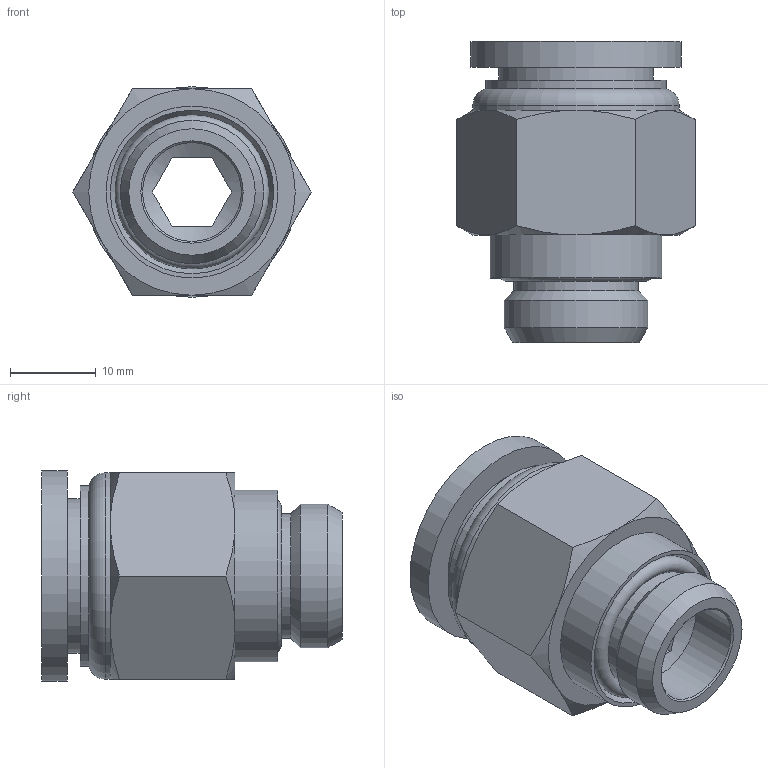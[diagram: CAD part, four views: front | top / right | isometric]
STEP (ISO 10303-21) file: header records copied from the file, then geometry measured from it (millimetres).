
FILE_DESCRIPTION(/* description */ (''),/* implementation_level */ '2;1');
FILE_NAME(/* name */ '\\ANGSRV\AnglifilItalia\_Tecnico\ArchivioUT\_Disegni3D ingombri\DISEGNI 3D per ingombri\RP\RP 51\RP513815.stp',/* time_stamp */ '2019-07-24T16:13:09+02:00',/* author */ ('UfficioTecnico'),/* organization */ (''),/* preprocessor_version */ 'ST-DEVELOPER v18',/* originating_system */ 'Autodesk Inventor 2020',/* authorisation */ '');
FILE_SCHEMA (('AUTOMOTIVE_DESIGN { 1 0 10303 214 3 1 1 }'));
Length unit declared in the file: millimetre
Products named in the file (1): RP513815
Bounding box: 27.71 x 35 x 24.5 mm (x, y, z)
Volume: 8248.7 mm3; surface area: 5497.9 mm2
Topology: 1 solids, 1 shells, 51 faces, 124 edges, 81 vertices
Faces by surface type: plane 21, cone 17, cylinder 10, torus 3
Full cylindrical faces by diameter (mm): 11.5 x1, 14.5 x2, 15 x1, 16.662 x1, 18 x1, 20 x1, 21 x1, 24 x1, 24.5 x1
Entity records: 1536 total; most frequent: CARTESIAN_POINT 317, DIRECTION 259, ORIENTED_EDGE 248, EDGE_CURVE 124, AXIS2_PLACEMENT_3D 113, VERTEX_POINT 81, CIRCLE 61, EDGE_LOOP 60
